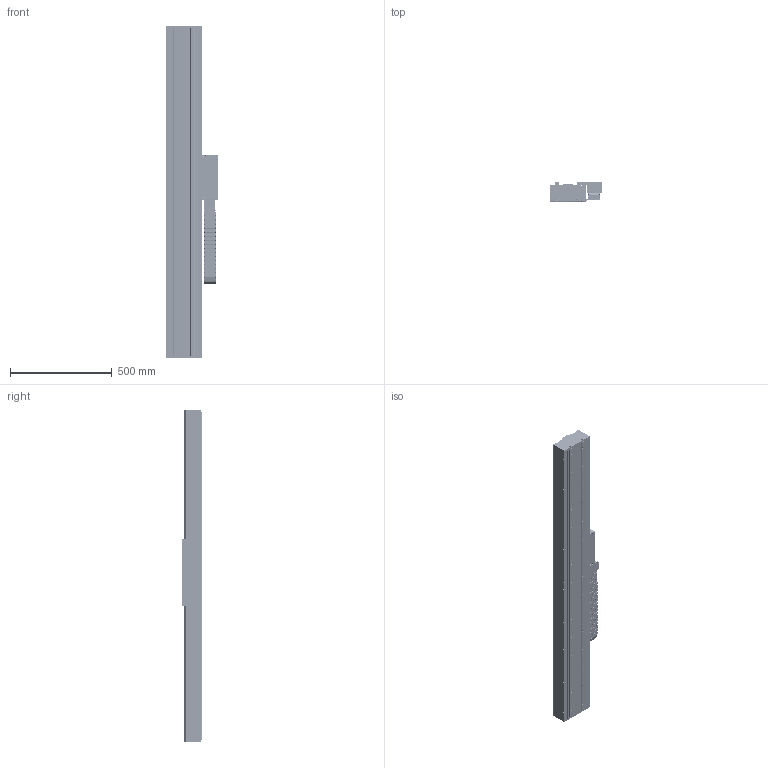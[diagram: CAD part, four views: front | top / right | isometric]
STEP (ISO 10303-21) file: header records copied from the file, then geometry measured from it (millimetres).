
FILE_DESCRIPTION (( 'STEP AP203' ), '1' );
FILE_NAME ('STF35230K-xC1B-Bxx.STEP', '2007-07-02T21:13:47', ( 'Yaskawa' ), ( 'Yaskawa' ), 'SwSTEP 2.0', 'SolidWorks 2007', '' );
FILE_SCHEMA (( 'CONFIG_CONTROL_DESIGN' ));
Products named in the file (61): End Stop with Bumper; B18.3.5M - 3 x 0.5 x 6 Socket FCHS  -- 6N_B18.3.5M - 3 x 0.5 x 6 Socket FCHS  -- 6N; 07.50.028.0_104; SSR15W Block; STF35120 Base_STF35BM-011; STF2035-003 Renishaw Encoder Mount; 07.50.028.0_107; 07.50.028.0_97; STF2035-007 End Stop; 07.50.028.0_96; STF35230 Complete Carriage; STF2035-001D F35-230 Carriage; STF2035-010-02 Side Cover 2_L; STCM-003 Cable Assembly Bottom; 07.50.028.0_108; STCM-007 Lower E-Chain Bracket; STF2035-002B-R1 F35-230 Carriage Horn; STF2035-005-R2 Cable Router; STF20120L; STF2035-004 Flag; STCM-005-R1 Cable Assembly Cover; STCM-R1; B18.3.4M - 3 x 0.5 x 12 SBHCS --N_B18.3.4M - 3 x 0.5 x 12 SBHCS --N; STF35BM Base_STF35120-011; Mult-SR15+580LY_011; B18.3.1M - 6 x 1.0 x 16 Hex SHCS -- 16NHX_B18.3.1M - 6 x 1.0 x 16 Hex SHCS -- 16NHX; STCM-001-R2 Cable Bracket; STCM-004 Cable Assembly Side; STF2035-009-02 Top Cover 2_L; Bumper-Medium; Serial Converter; 07.50.028.0_106; STCM-002-R2 Cable Assembly Front; 07.50.028.0_121; RGH22B; STF35230K-xC1B-Bxx; SGLFW-35A230AP; STCM-006-R1 Upper E-chain Bracket; 07.50.028.0_109; 07.50.028.0_103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
Assembly tree (99 placements, depth 4):
  STF35230K-xC1B-Bxx
    STF35230 Complete Carriage
      STF2035-004 Flag
      STF2035-001D F35-230 Carriage
      SSR15W Block  x6
      SGLFW-35A230AP
      STF2035-005-R2 Cable Router
      STF2035-002B-R1 F35-230 Carriage Horn  x2
      STF2035-003 Renishaw Encoder Mount
      STCM-R1
        B18.3.4M - 3 x 0.5 x 12 SBHCS --N_B18.3.4M - 3 x 0.5 x 12 SBHCS --N  x4
        STCM-004 Cable Assembly Side
        STCM-006-R1 Upper E-chain Bracket
        B18.3.5M - 3 x 0.5 x 6 Socket FCHS  -- 6N_B18.3.5M - 3 x 0.5 x 6 Socket FCHS  -- 6N  x6
        STCM-002-R2 Cable Assembly Front
        STCM-003 Cable Assembly Bottom
        Serial Converter
        STCM-005-R1 Cable Assembly Cover
        STCM-001-R2 Cable Bracket
      RGH22B
    STF20120L
      07.50.028.0_117
      07.50.028.0_121
      07.50.028.0_111  x11
      07.50.028.0_110
      07.50.028.0_108
      07.50.028.0_113
      07.50.028.0_105  x9
      07.50.028.0_115
      07.50.028.0_106
      07.50.028.0_99
      07.50.028.0_123
      07.50.028.0_104
      07.50.028.0_120
      07.50.028.0_122
      07.50.028.0_100
      07.50.028.0_101
      07.50.028.0_119
      07.50.028.0_118
      07.50.028.0_102
      07.50.028.0_103
      07.50.028.0_98
      07.50.028.0_109
      07.50.028.0_116
      07.50.028.0_107
      07.50.028.0_112
      07.50.028.0_96
      07.50.028.0_97
      07.50.028.0_114
    STCM-007 Lower E-Chain Bracket
    STF2035-006 Endplate  x2
    STF2035-010-02 Side Cover 2_L  x2
    STF35BM Base_STF35120-011
      SGLFM-35756AC  x2
      STF35120 Base_STF35BM-011
      End Stop with Bumper  x4
        STF2035-007 End Stop
        Bumper-Medium
        B18.3.1M - 6 x 1.0 x 16 Hex SHCS -- 16NHX_B18.3.1M - 6 x 1.0 x 16 Hex SHCS -- 16NHX
      Mult-SR15+580LY_011  x2
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Bounding box: 254.2 x 94.7 x 1629.09 mm (x, y, z)
Volume: 9889369 mm3; surface area: 3274463.1 mm2
Topology: 144 solids, 144 shells, 7873 faces, 20349 edges, 12961 vertices
Faces by surface type: plane 4004, cylinder 3167, cone 600, bspline 62, torus 32, sphere 8
Entity records: 147252 total; most frequent: DIRECTION 24977, CARTESIAN_POINT 24363, ORIENTED_EDGE 23014, EDGE_CURVE 11507, AXIS2_PLACEMENT_3D 8842, VERTEX_POINT 7527, VECTOR 7293, LINE 7293
